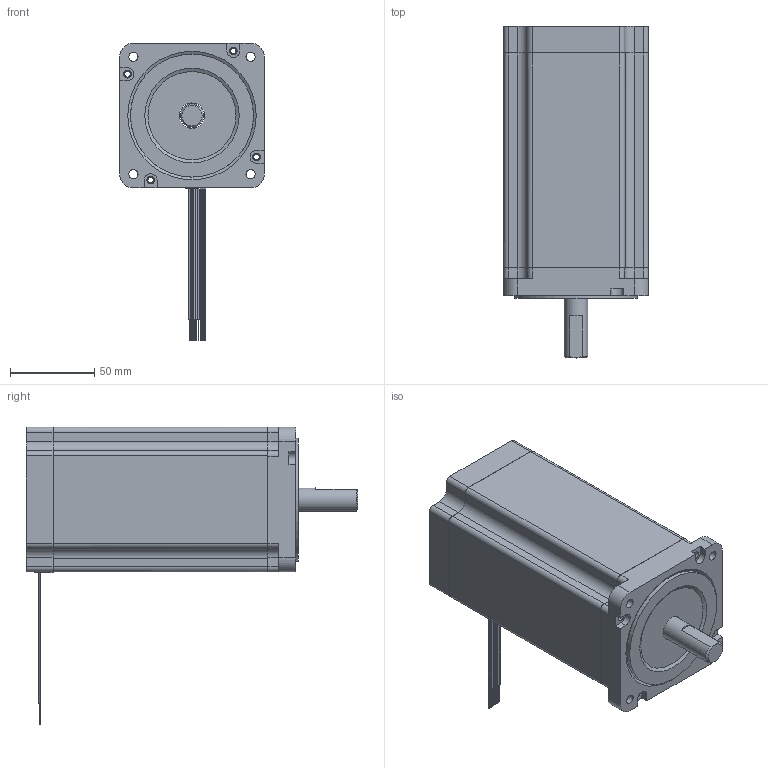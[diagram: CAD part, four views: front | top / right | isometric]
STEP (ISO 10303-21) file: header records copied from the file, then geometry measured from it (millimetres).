
FILE_DESCRIPTION( ('This file contains a STEP AP42 implementation' ,'as created by ZW3D STEP Interface translator.' ,'') ,'2;1' );
FILE_NAME( '34H2160-80-4A-XXX.stp' ,'26 115.141622', (''), ('ZWCAD Software Co.'), 'Version 1.0', 'ZW3D to STEP translator', '' );
FILE_SCHEMA(('AUTOMOTIVE_DESIGN { 1 0 10303 214 1 1 1 1 }'));
Length unit declared in the file: millimetre
Products named in the file (1): 0
Bounding box: 86 x 197 x 176.75 mm (x, y, z)
Volume: 360479.8 mm3; surface area: 145060.3 mm2
Topology: 6 solids, 6 shells, 302 faces, 742 edges, 487 vertices
Faces by surface type: plane 164, cylinder 134, cone 4
Full cylindrical faces by diameter (mm): 3.3 x4, 4.5 x4, 5.08 x4, 5.5 x4, 14 x1, 15 x2, 36 x1, 42 x2, 52.27 x1, 52.273 x1, 73 x1, 78.679 x1, 80 x2
Entity records: 9357 total; most frequent: DIRECTION 1626, CARTESIAN_POINT 1589, ORIENTED_EDGE 1484, EDGE_CURVE 742, AXIS2_PLACEMENT_3D 604, VERTEX_POINT 487, VECTOR 418, LINE 418
